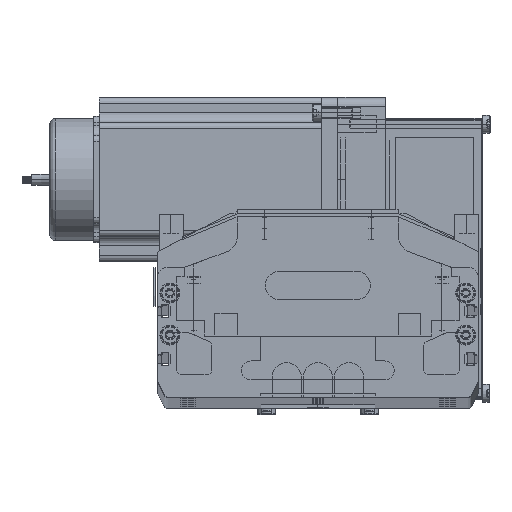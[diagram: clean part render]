
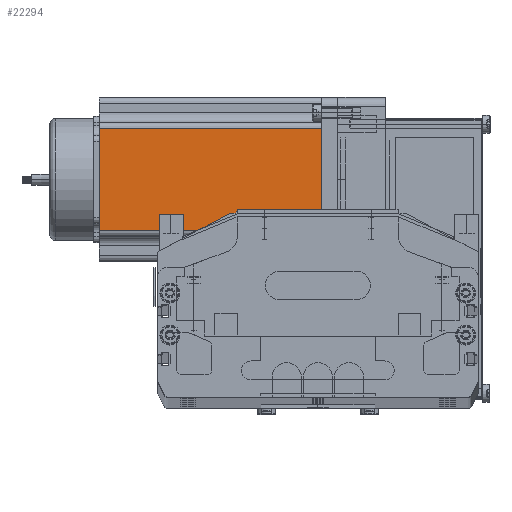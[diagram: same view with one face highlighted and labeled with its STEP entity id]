
A CAD part, top view. The second image highlights one B-rep face of the part: STEP entity #22294.
In plain terms, the highlighted planar face has unit normal (0, 0, 1) as drawn and (0, -1, 0) by its records, which use the part's own axes.
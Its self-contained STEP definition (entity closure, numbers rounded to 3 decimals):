
#993 = CARTESIAN_POINT ( 'NONE',  ( 16.16, 0., 0. ) ) ;
#1097 = CARTESIAN_POINT ( 'NONE',  ( 69.74, 0., 116.5 ) ) ;
#1128 = DIRECTION ( 'NONE',  ( 0., 1., 0. ) ) ;
#1129 = CARTESIAN_POINT ( 'NONE',  ( 0., 0., 116.5 ) ) ;
#1135 = FACE_OUTER_BOUND ( 'NONE', #22553, .T. ) ;
#1136 = AXIS2_PLACEMENT_3D ( 'NONE', #1129, #1128, #1158 ) ;
#1144 = PLANE ( 'NONE',  #1136 ) ;
#1158 = DIRECTION ( 'NONE',  ( 0., 0., 1. ) ) ;
#1389 = DIRECTION ( 'NONE',  ( 1., 0., 0. ) ) ;
#1390 = VECTOR ( 'NONE', #1389, 1000. ) ;
#1391 = CARTESIAN_POINT ( 'NONE',  ( 0., 0., 116.5 ) ) ;
#1392 = LINE ( 'NONE', #1391, #1390 ) ;
#1393 = CARTESIAN_POINT ( 'NONE',  ( 16.16, 0., 116.5 ) ) ;
#22181 = VERTEX_POINT ( 'NONE', #993 ) ;
#22199 = ORIENTED_EDGE ( 'NONE', *, *, #23017, .T. ) ;
#22203 = VERTEX_POINT ( 'NONE', #1097 ) ;
#22294 = ADVANCED_FACE ( 'NONE', ( #1135 ), #1144, .F. ) ;
#22296 = ORIENTED_EDGE ( 'NONE', *, *, #23015, .T. ) ;
#22401 = VERTEX_POINT ( 'NONE', #1393 ) ;
#22407 = EDGE_CURVE ( 'NONE', #22401, #22203, #1392, .T. ) ;
#22426 = ORIENTED_EDGE ( 'NONE', *, *, #22407, .F. ) ;
#22433 = ORIENTED_EDGE ( 'NONE', *, *, #22870, .T. ) ;
#22553 = EDGE_LOOP ( 'NONE', ( #22199, #22296, #22426, #22433 ) ) ;
#22870 = EDGE_CURVE ( 'NONE', #22401, #22181, #51016, .T. ) ;
#22873 = VERTEX_POINT ( 'NONE', #50963 ) ;
#23015 = EDGE_CURVE ( 'NONE', #22873, #22203, #55587, .T. ) ;
#23017 = EDGE_CURVE ( 'NONE', #22181, #22873, #55647, .T. ) ;
#50963 = CARTESIAN_POINT ( 'NONE',  ( 69.74, 0., 0. ) ) ;
#51012 = CARTESIAN_POINT ( 'NONE',  ( 16.16, 0., 116.5 ) ) ;
#51016 = LINE ( 'NONE', #51012, #51026 ) ;
#51025 = DIRECTION ( 'NONE',  ( 0., 0., -1. ) ) ;
#51026 = VECTOR ( 'NONE', #51025, 1000. ) ;
#55351 = DIRECTION ( 'NONE',  ( 0., 0., 1. ) ) ;
#55352 = VECTOR ( 'NONE', #55351, 1000. ) ;
#55353 = CARTESIAN_POINT ( 'NONE',  ( 69.74, 0., 116.5 ) ) ;
#55587 = LINE ( 'NONE', #55353, #55352 ) ;
#55641 = DIRECTION ( 'NONE',  ( 1., 0., 0. ) ) ;
#55643 = VECTOR ( 'NONE', #55641, 1000. ) ;
#55646 = CARTESIAN_POINT ( 'NONE',  ( 0., 0., 0. ) ) ;
#55647 = LINE ( 'NONE', #55646, #55643 ) ;
